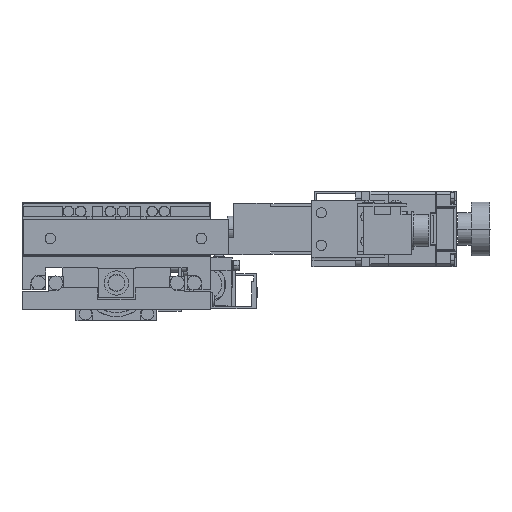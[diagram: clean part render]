
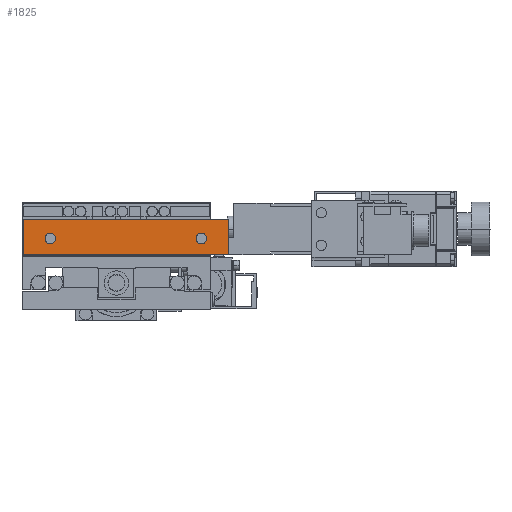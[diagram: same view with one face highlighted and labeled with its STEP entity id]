
A CAD part, left-side view. The second image highlights one B-rep face of the part: STEP entity #1825.
In plain terms, the highlighted planar face has unit normal (-1, 0, 0).
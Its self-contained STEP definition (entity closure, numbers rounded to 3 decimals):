
#1825=ADVANCED_FACE('',(#4747,#4748,#4749),#4750,.F.);
#4747=FACE_BOUND('',#7991,.T.);
#4748=FACE_BOUND('',#7992,.T.);
#4749=FACE_OUTER_BOUND('',#7993,.T.);
#4750=PLANE('',#7994);
#7991=EDGE_LOOP('',(#18441,#18442));
#7992=EDGE_LOOP('',(#18443,#18444));
#7993=EDGE_LOOP('',(#18445,#18446,#18447,#18448));
#7994=AXIS2_PLACEMENT_3D('',#18449,#18450,#18451);
#18441=ORIENTED_EDGE('',*,*,#23941,.T.);
#18442=ORIENTED_EDGE('',*,*,#23903,.T.);
#18443=ORIENTED_EDGE('',*,*,#23942,.T.);
#18444=ORIENTED_EDGE('',*,*,#23907,.T.);
#18445=ORIENTED_EDGE('',*,*,#23923,.T.);
#18446=ORIENTED_EDGE('',*,*,#23943,.F.);
#18447=ORIENTED_EDGE('',*,*,#23928,.F.);
#18448=ORIENTED_EDGE('',*,*,#23939,.T.);
#18449=CARTESIAN_POINT('',(-51.8,-41.5,33.5));
#18450=DIRECTION('',(1.0,0.,0.));
#18451=DIRECTION('',(0.,0.,-1.0));
#23903=EDGE_CURVE('',#29714,#29718,#29720,.T.);
#23907=EDGE_CURVE('',#29722,#29726,#29728,.T.);
#23923=EDGE_CURVE('',#29738,#29758,#29760,.T.);
#23928=EDGE_CURVE('',#29766,#29768,#29769,.T.);
#23939=EDGE_CURVE('',#29766,#29738,#29789,.T.);
#23941=EDGE_CURVE('',#29718,#29714,#29791,.T.);
#23942=EDGE_CURVE('',#29726,#29722,#29792,.T.);
#23943=EDGE_CURVE('',#29768,#29758,#29793,.T.);
#29714=VERTEX_POINT('',#38298);
#29718=VERTEX_POINT('',#38303);
#29720=CIRCLE('',#38306,1.95);
#29722=VERTEX_POINT('',#38308);
#29726=VERTEX_POINT('',#38313);
#29728=CIRCLE('',#38316,1.95);
#29738=VERTEX_POINT('',#38328);
#29758=VERTEX_POINT('',#38358);
#29760=LINE('',#38361,#38362);
#29766=VERTEX_POINT('',#38368);
#29768=VERTEX_POINT('',#38371);
#29769=LINE('',#38372,#38373);
#29789=LINE('',#38403,#38404);
#29791=CIRCLE('',#38407,1.95);
#29792=CIRCLE('',#38408,1.95);
#29793=LINE('',#38409,#38410);
#38298=CARTESIAN_POINT('',(-51.8,22.55,26.5));
#38303=CARTESIAN_POINT('',(-51.8,26.45,26.5));
#38306=AXIS2_PLACEMENT_3D('',#45341,#45342,#45343);
#38308=CARTESIAN_POINT('',(-51.8,-33.45,26.5));
#38313=CARTESIAN_POINT('',(-51.8,-29.55,26.5));
#38316=AXIS2_PLACEMENT_3D('',#45349,#45350,#45351);
#38328=CARTESIAN_POINT('',(-51.8,34.5,33.5));
#38358=CARTESIAN_POINT('',(-51.8,34.5,20.5));
#38361=CARTESIAN_POINT('',(-51.8,34.5,33.5));
#38362=VECTOR('',#45371,1000.0);
#38368=CARTESIAN_POINT('',(-51.8,-41.5,33.5));
#38371=CARTESIAN_POINT('',(-51.8,-41.5,20.5));
#38372=CARTESIAN_POINT('',(-51.8,-41.5,33.5));
#38373=VECTOR('',#45382,1000.0);
#38403=CARTESIAN_POINT('',(-51.8,-41.5,33.5));
#38404=VECTOR('',#45393,1000.0);
#38407=AXIS2_PLACEMENT_3D('',#45395,#45396,#45397);
#38408=AXIS2_PLACEMENT_3D('',#45398,#45399,#45400);
#38409=CARTESIAN_POINT('',(-51.8,-41.5,20.5));
#38410=VECTOR('',#45401,1000.0);
#45341=CARTESIAN_POINT('',(-51.8,24.5,26.5));
#45342=DIRECTION('',(1.0,0.,0.));
#45343=DIRECTION('',(0.,1.0,0.));
#45349=CARTESIAN_POINT('',(-51.8,-31.5,26.5));
#45350=DIRECTION('',(1.0,0.,0.));
#45351=DIRECTION('',(0.,1.0,0.));
#45371=DIRECTION('',(0.,0.,-1.0));
#45382=DIRECTION('',(0.,0.,-1.0));
#45393=DIRECTION('',(0.,1.0,0.));
#45395=CARTESIAN_POINT('',(-51.8,24.5,26.5));
#45396=DIRECTION('',(1.0,0.,0.));
#45397=DIRECTION('',(0.,1.0,0.));
#45398=CARTESIAN_POINT('',(-51.8,-31.5,26.5));
#45399=DIRECTION('',(1.0,0.,0.));
#45400=DIRECTION('',(0.,1.0,0.));
#45401=DIRECTION('',(0.,1.0,0.));
